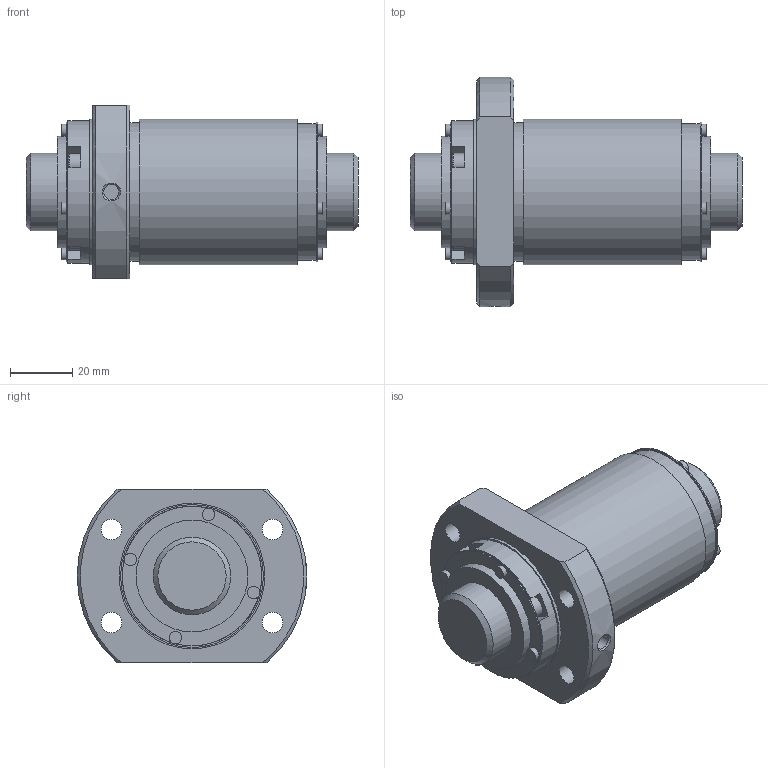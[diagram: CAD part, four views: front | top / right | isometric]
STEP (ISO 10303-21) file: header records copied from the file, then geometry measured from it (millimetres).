
FILE_DESCRIPTION(/* description */ ('STEP AP203'),/* implementation_level */ '2;1');
FILE_NAME(/* name */ 'BLK2525-2.8ZZG1+107LC3_0_1300',/* time_stamp */ '2025-01-16T07:04:47+01:00',/* author */ ('License CC BY-ND 4.0'),/* organization */ ('CADENAS'),/* preprocessor_version */ 'ST-DEVELOPER v19.3',/* originating_system */ 'PARTsolutions',/* authorisation */ ' ');
FILE_SCHEMA (('CONFIG_CONTROL_DESIGN'));
Length unit declared in the file: millimetre
Products named in the file (3): BLK2525-2.8ZZG1+107LC3_0_1300; ZZ0130BLK2525-2.80Shaft; RR0130BLK2525-2.8Nut
Assembly tree (2 placements, depth 2):
  BLK2525-2.8ZZG1+107LC3_0_1300
    ZZ0130BLK2525-2.80Shaft
    RR0130BLK2525-2.8Nut
Bounding box: 107 x 74 x 56 mm (x, y, z)
Volume: 174870.9 mm3; surface area: 38713.6 mm2
Topology: 2 solids, 2 shells, 162 faces, 375 edges, 230 vertices
Faces by surface type: plane 103, cylinder 38, cone 17, torus 4
Full cylindrical faces by diameter (mm): 3 x4, 4 x8, 4.917 x1, 6.6 x4, 7.2 x4, 25 x2, 36 x2, 44 x1, 44.65 x1, 45 x2, 46 x1, 47 x2
Entity records: 4272 total; most frequent: CARTESIAN_POINT 805, DIRECTION 746, ORIENTED_EDGE 602, AXIS2_PLACEMENT_3D 313, EDGE_CURVE 301, FACE_BOUND 238, EDGE_LOOP 234, VERTEX_POINT 209
